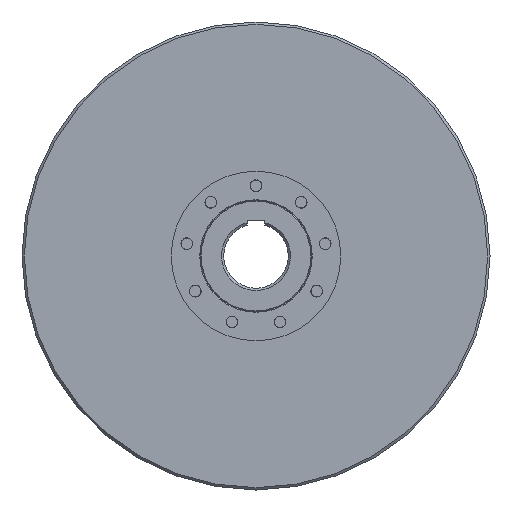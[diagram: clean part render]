
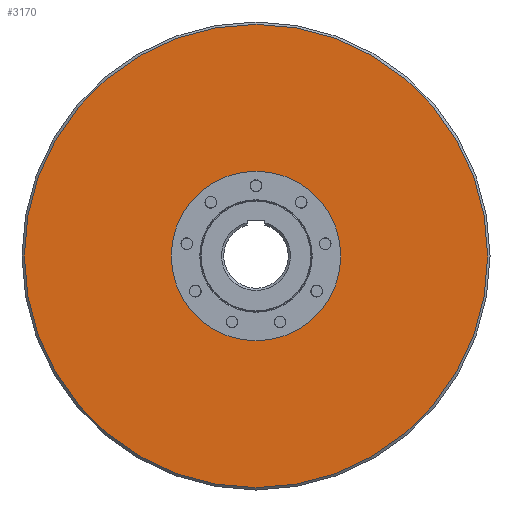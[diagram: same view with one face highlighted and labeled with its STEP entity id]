
A CAD part, left-side view. The second image highlights one B-rep face of the part: STEP entity #3170.
In plain terms, the highlighted planar face has unit normal (-1, 0, 0).
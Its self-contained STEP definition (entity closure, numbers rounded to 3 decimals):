
#467=PLANE('',#3496);
#606=FACE_BOUND('',#1136,.T.);
#833=FACE_OUTER_BOUND('',#1135,.T.);
#1135=EDGE_LOOP('',(#2568));
#1136=EDGE_LOOP('',(#2569));
#1288=CIRCLE('',#3282,72.5);
#1356=CIRCLE('',#3497,198.);
#1436=VERTEX_POINT('',#4553);
#1622=VERTEX_POINT('',#5295);
#1710=EDGE_CURVE('',#1436,#1436,#1288,.T.);
#1964=EDGE_CURVE('',#1622,#1622,#1356,.T.);
#2568=ORIENTED_EDGE('',*,*,#1964,.F.);
#2569=ORIENTED_EDGE('',*,*,#1710,.T.);
#3170=ADVANCED_FACE('',(#833,#606),#467,.F.);
#3282=AXIS2_PLACEMENT_3D('',#4554,#3689,#3690);
#3496=AXIS2_PLACEMENT_3D('',#5294,#4243,#4244);
#3497=AXIS2_PLACEMENT_3D('',#5296,#4245,#4246);
#3689=DIRECTION('center_axis',(1.,0.,0.));
#3690=DIRECTION('ref_axis',(0.,-0.766,0.643));
#4243=DIRECTION('center_axis',(1.,0.,0.));
#4244=DIRECTION('ref_axis',(0.,1.,0.));
#4245=DIRECTION('center_axis',(1.,0.,0.));
#4246=DIRECTION('ref_axis',(0.,-1.,0.));
#4553=CARTESIAN_POINT('',(-76.75,55.538,-46.602));
#4554=CARTESIAN_POINT('Origin',(-76.75,0.,
0.));
#5294=CARTESIAN_POINT('Origin',(-76.75,210.485,0.));
#5295=CARTESIAN_POINT('',(-76.75,198.,0.));
#5296=CARTESIAN_POINT('Origin',(-76.75,0.,0.));
